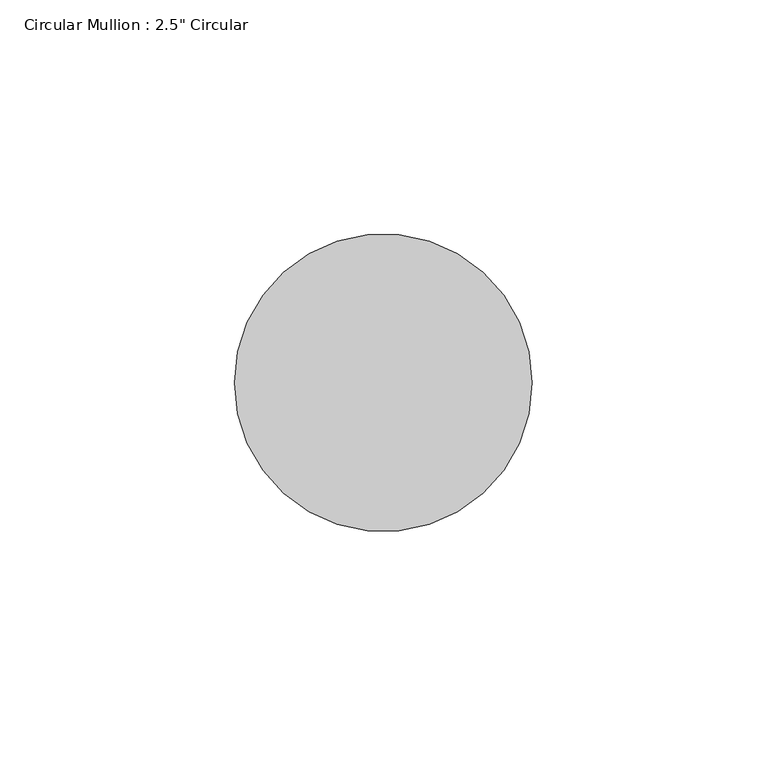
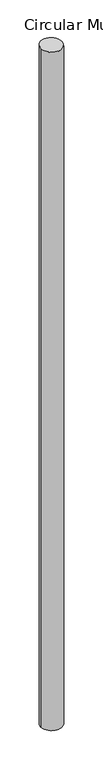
"""IFC4 building model written with IfcOpenShell, lengths in millimetres: member geometry."""

from ifc_helpers import new_model, si_unit, frame, origin, origin_with_axes, place, context, project, spatial, circle_curve, ellipse_curve, source, transform, mapped, element, save
from ifc_brep_helpers import plane_surface, cylinder_surface, advanced_brep


def member_27f6f0a5(model_context):
    return source(origin(), model_context, "Body", "AdvancedBrep", [
        advanced_brep(
        [(31.75, 0.0, -2172.0624608), (-31.75, 0.0, -2172.0624608), (-31.75, 0.0, 0.1474966), (31.75, 0.0, -0.1474966)],
        [
            (0, 1, circle_curve(frame((0.0, 0.0, -2172.0624608), z_axis=(0.0, 0.0, -1.0), x_axis=(1.0, 0.0, 0.0)), 31.75)),
            (1, 0, circle_curve(frame((0.0, 0.0, -2172.0624608), z_axis=(0.0, 0.0, -1.0), x_axis=(1.0, 0.0, 0.0)), 31.75)),
            (2, 3, ellipse_curve(frame((0.0, 0.0, 0.0), z_axis=(-0.00463934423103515, 0.0515115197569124, -0.9986616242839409), x_axis=(-0.08958108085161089, 0.9946357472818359, 0.051720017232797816)), 31.7925504, 31.75)),
            (3, 0),
            (1, 2),
            (3, 2, ellipse_curve(frame((0.0, 0.0, 0.0), z_axis=(-0.00463934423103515, 0.0515115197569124, -0.9986616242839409), x_axis=(-0.08958108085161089, 0.9946357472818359, 0.051720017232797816)), 31.7925504, 31.75)),
        ],
        [
            plane_surface(frame((0.0, -31.75, -2172.0624608), z_axis=(0.0, 0.0, -1.0), x_axis=(-1.0, 0.0, 0.0))),
            cylinder_surface(origin_with_axes(), 31.75),
            plane_surface(frame((303.5712682, 27.3409058, 0.0), z_axis=(0.00463934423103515, -0.0515115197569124, 0.9986616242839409), x_axis=(0.08958108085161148, -0.9946357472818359, -0.051720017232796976))),
        ],
        [
            (0, [[1, 2]]),
            (1, [[3, 4, -2, 5]]),
            (1, [[6, -5, -1, -4]]),
            (2, [[-3, -6]]),
        ],
    ),
    ])


if __name__ == "__main__":
    model = new_model("IFC4")
    model_context = context("Model", 3, world=origin())
    ifc_project = project(units=[si_unit("LENGTHUNIT", "METRE", prefix="MILLI")], contexts=[model_context])
    site = spatial("IfcSite", under=ifc_project)
    building = spatial("IfcBuilding", under=site)
    placement = place(None, origin())
    member_shape = member_27f6f0a5(model_context)
    element("IfcMember", 1, ObjectType="Circular Mullion : 2.5\" Circular", at=placement, inside=building, context=model_context, shape_type="MappedRepresentation", body=[
        mapped(member_shape, transform((0.0, 0.0, 0.0), x_axis=(1.0, 0.0, 0.0), y_axis=(0.0, 1.0, 0.0), z_axis=(0.0, 0.0, 1.0))),
    ])
    save(model, "model.ifc")
